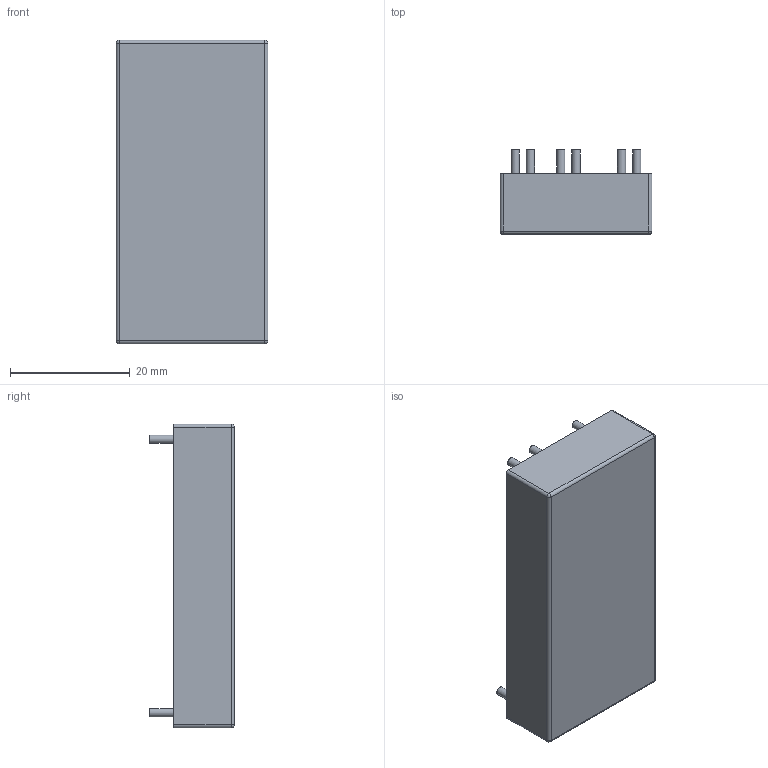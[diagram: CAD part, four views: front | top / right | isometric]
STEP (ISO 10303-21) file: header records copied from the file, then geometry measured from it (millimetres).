
FILE_DESCRIPTION(/* description */ (''),/* implementation_level */ '2;1');
FILE_NAME(/* name */ '',/* time_stamp */ '2022-03-21T10:53:02+01:00',/* author */ (''),/* organization */ (''),/* preprocessor_version */ 'ST-DEVELOPER v18.1',/* originating_system */ '',/* authorisation */ '');
FILE_SCHEMA (('AUTOMOTIVE_DESIGN { 1 0 10303 214 3 1 1 }'));
Length unit declared in the file: millimetre
Products named in the file (1): JETDi60-C3_case_v1.1_pins
Bounding box: 25.4 x 14.16 x 50.8 mm (x, y, z)
Volume: 12533.5 mm3; surface area: 4279.8 mm2
Topology: 1 solids, 1 shells, 39 faces, 78 edges, 48 vertices
Faces by surface type: cylinder 18, plane 17, sphere 4
Full cylindrical faces by diameter (mm): 1.4 x6
Entity records: 1053 total; most frequent: DIRECTION 194, CARTESIAN_POINT 166, ORIENTED_EDGE 156, EDGE_CURVE 78, AXIS2_PLACEMENT_3D 76, VERTEX_POINT 48, EDGE_LOOP 46, LINE 42
